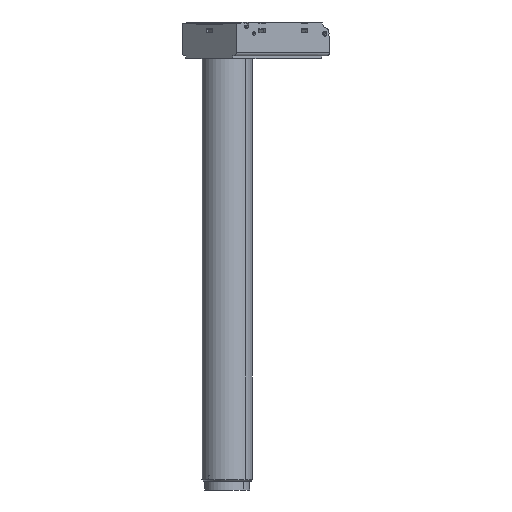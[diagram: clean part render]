
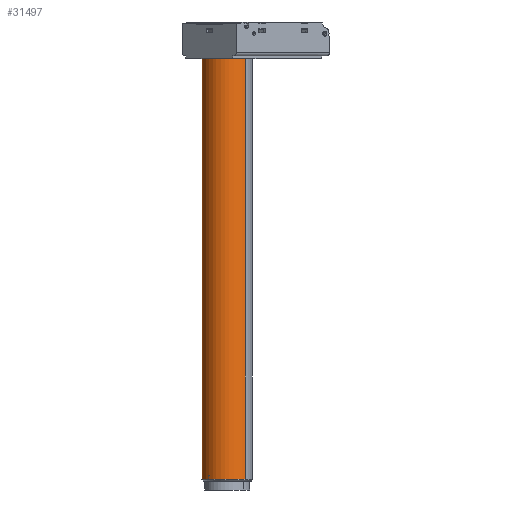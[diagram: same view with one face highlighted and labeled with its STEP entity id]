
A CAD part, left-side view. The second image highlights one B-rep face of the part: STEP entity #31497.
In plain terms, the highlighted cylindrical face has radius 35 mm (diameter 70 mm), a partial arc.
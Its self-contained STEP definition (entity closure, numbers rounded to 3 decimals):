
#370 = DIRECTION ( 'NONE',  ( 0., 0., 1. ) ) ;
#1080 = LINE ( 'NONE', #17202, #23787 ) ;
#1688 = VERTEX_POINT ( 'NONE', #9816 ) ;
#2003 = CYLINDRICAL_SURFACE ( 'NONE', #4108, 35. ) ;
#4108 = AXIS2_PLACEMENT_3D ( 'NONE', #19014, #38535, #38672 ) ;
#4846 = DIRECTION ( 'NONE',  ( 0.707, 0.707, 0. ) ) ;
#4919 = ORIENTED_EDGE ( 'NONE', *, *, #16085, .T. ) ;
#6275 = AXIS2_PLACEMENT_3D ( 'NONE', #19857, #370, #39114 ) ;
#7096 = EDGE_LOOP ( 'NONE', ( #9544, #27601, #8413, #4919, #22884 ) ) ;
#8413 = ORIENTED_EDGE ( 'NONE', *, *, #31536, .F. ) ;
#9544 = ORIENTED_EDGE ( 'NONE', *, *, #41446, .F. ) ;
#9816 = CARTESIAN_POINT ( 'NONE',  ( -69.227, 71.424, 1960.508 ) ) ;
#10188 = CARTESIAN_POINT ( 'NONE',  ( -69.227, 21.927, 1965.508 ) ) ;
#10887 = CARTESIAN_POINT ( 'NONE',  ( -44.478, 46.676, 1381.008 ) ) ;
#11184 = VERTEX_POINT ( 'NONE', #23322 ) ;
#12524 = AXIS2_PLACEMENT_3D ( 'NONE', #10887, #39912, #4846 ) ;
#15632 = CIRCLE ( 'NONE', #6275, 35. ) ;
#16085 = EDGE_CURVE ( 'NONE', #11184, #41516, #1080, .T. ) ;
#17202 = CARTESIAN_POINT ( 'NONE',  ( -19.729, 71.424, 1965.508 ) ) ;
#17358 = AXIS2_PLACEMENT_3D ( 'NONE', #26085, #19909, #29341 ) ;
#19014 = CARTESIAN_POINT ( 'NONE',  ( -44.478, 46.676, 1965.508 ) ) ;
#19857 = CARTESIAN_POINT ( 'NONE',  ( -44.478, 46.676, 1960.508 ) ) ;
#19909 = DIRECTION ( 'NONE',  ( 0., 0., 1. ) ) ;
#20711 = CIRCLE ( 'NONE', #17358, 35. ) ;
#21892 = VERTEX_POINT ( 'NONE', #37893 ) ;
#22884 = ORIENTED_EDGE ( 'NONE', *, *, #32239, .F. ) ;
#23028 = DIRECTION ( 'NONE',  ( 0., 0., -1. ) ) ;
#23261 = DIRECTION ( 'NONE',  ( 0., 0., -1. ) ) ;
#23322 = CARTESIAN_POINT ( 'NONE',  ( -19.729, 71.424, 1960.508 ) ) ;
#23787 = VECTOR ( 'NONE', #23261, 1000. ) ;
#26085 = CARTESIAN_POINT ( 'NONE',  ( -44.478, 46.676, 1960.508 ) ) ;
#27601 = ORIENTED_EDGE ( 'NONE', *, *, #30936, .F. ) ;
#27604 = VECTOR ( 'NONE', #23028, 1000. ) ;
#29198 = CARTESIAN_POINT ( 'NONE',  ( -69.227, 21.927, 1381.008 ) ) ;
#29341 = DIRECTION ( 'NONE',  ( 0.707, 0.707, 0. ) ) ;
#30195 = CARTESIAN_POINT ( 'NONE',  ( -19.729, 71.424, 1381.008 ) ) ;
#30936 = EDGE_CURVE ( 'NONE', #1688, #21892, #20711, .T. ) ;
#30986 = VERTEX_POINT ( 'NONE', #29198 ) ;
#31497 = ADVANCED_FACE ( 'NONE', ( #33245 ), #2003, .T. ) ;
#31536 = EDGE_CURVE ( 'NONE', #11184, #1688, #15632, .T. ) ;
#32239 = EDGE_CURVE ( 'NONE', #30986, #41516, #37736, .T. ) ;
#33245 = FACE_OUTER_BOUND ( 'NONE', #7096, .T. ) ;
#35133 = LINE ( 'NONE', #10188, #27604 ) ;
#37736 = CIRCLE ( 'NONE', #12524, 35. ) ;
#37893 = CARTESIAN_POINT ( 'NONE',  ( -69.227, 21.927, 1960.508 ) ) ;
#38535 = DIRECTION ( 'NONE',  ( 0., 0., -1. ) ) ;
#38672 = DIRECTION ( 'NONE',  ( 0.707, 0.707, 0. ) ) ;
#39114 = DIRECTION ( 'NONE',  ( 0.707, 0.707, 0. ) ) ;
#39912 = DIRECTION ( 'NONE',  ( 0., 0., -1. ) ) ;
#41446 = EDGE_CURVE ( 'NONE', #21892, #30986, #35133, .T. ) ;
#41516 = VERTEX_POINT ( 'NONE', #30195 ) ;
